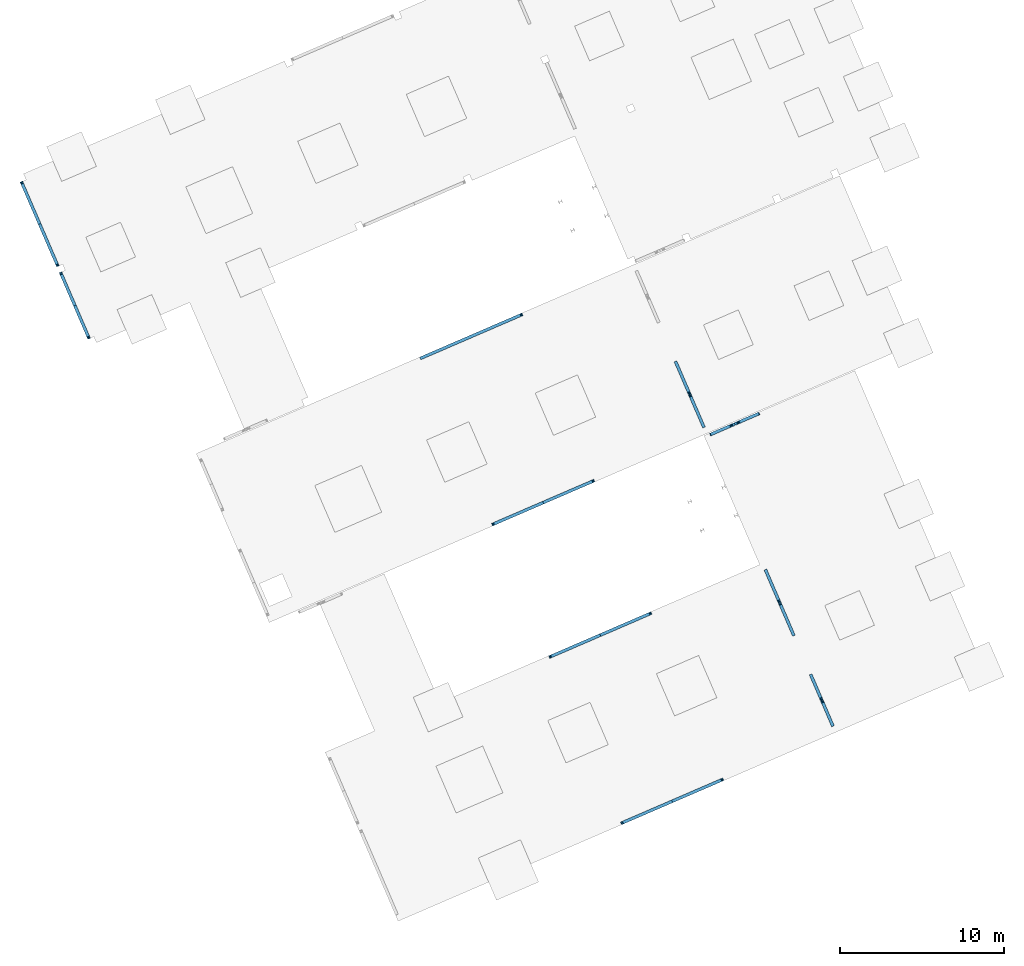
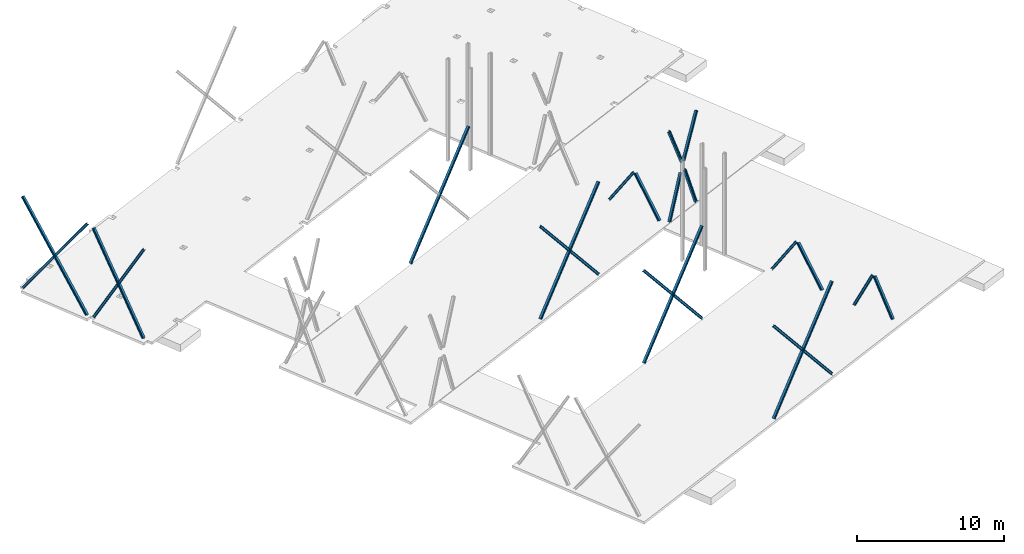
# One storey, part 3 of 6: 21 members.
"""IFC4 building model written with IfcOpenShell, lengths in metres."""

from ifc_helpers import new_model, entity, si_unit, converted_unit, derived_unit, direction, frame, origin, place, context, subcontext, project, spatial, line, arc, indexed_curve, outline, extrude, source, transform, mapped, material, type_object, type_shapes, element, save


model = new_model("IFC4")

# Units and contexts
model_context = context("Model", 3, precision=1e-05, world=origin(), true_north=direction((6.12323399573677e-17, 1.0)))
body_context = subcontext(model_context, "Body", "Model", "MODEL_VIEW")
ifc_project = project(units=[si_unit("LENGTHUNIT", "METRE"), si_unit("AREAUNIT", "SQUARE_METRE"), si_unit("VOLUMEUNIT", "CUBIC_METRE"), converted_unit("PLANEANGLEUNIT", "DEGREE", entity("IfcPlaneAngleMeasure", 0.0174532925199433), si_unit("PLANEANGLEUNIT", "RADIAN"), dimensions=[0, 0, 0, 0, 0, 0, 0]), si_unit("MASSUNIT", "GRAM", prefix="KILO"), derived_unit("MOMENTOFINERTIAUNIT", [(si_unit("LENGTHUNIT", "METRE"), 4)]), derived_unit("LINEARFORCEUNIT", [(si_unit("MASSUNIT", "GRAM", prefix="KILO"), 1), (si_unit("TIMEUNIT", "SECOND"), -2)]), derived_unit("WARPINGCONSTANTUNIT", [(si_unit("LENGTHUNIT", "METRE"), 6)]), derived_unit("THERMALTRANSMITTANCEUNIT", [(si_unit("MASSUNIT", "GRAM", prefix="KILO"), 1), (si_unit("THERMODYNAMICTEMPERATUREUNIT", "KELVIN"), -1), (si_unit("TIMEUNIT", "SECOND"), -3)]), derived_unit("USERDEFINED", [(si_unit("MASSUNIT", "GRAM", prefix="KILO"), 1), (si_unit("TIMEUNIT", "SECOND"), -2), (si_unit("THERMODYNAMICTEMPERATUREUNIT", "KELVIN"), -1)]), derived_unit("THERMALRESISTANCEUNIT", [(si_unit("MASSUNIT", "GRAM", prefix="KILO"), -1), (si_unit("TIMEUNIT", "SECOND"), 3), (si_unit("THERMODYNAMICTEMPERATUREUNIT", "KELVIN"), 1)])], contexts=[model_context])

# Site, building, storey
site_placement = place(None, origin())
site = spatial("IfcSite", under=ifc_project, at=site_placement, Name="Default", CompositionType="ELEMENT")
building_placement = place(site_placement, frame((12.6613425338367, -82.5732315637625, 317.15), z_axis=(0.0, 0.0, 1.0), x_axis=(-0.396377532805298, 0.918087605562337, 0.0)))
building = spatial("IfcBuilding", under=site, at=building_placement, Name="CESFAM Coyhaique", CompositionType="ELEMENT")
storey_placement = place(building_placement, frame((0.0, 0.0, -0.0500000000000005)))
storey = spatial("IfcBuildingStorey", under=building, at=storey_placement, Name="Nivel 1", CompositionType="ELEMENT", Elevation=-0.0500000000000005)

# Members
ifc_material = material(Name="Steel, 45-345", Category="Metal")
member_type_1 = type_object("IfcMemberType", Name="M_Double C-Channel:doble T HEB 180", PredefinedType="BRACE", material=ifc_material)
shared_shape_1 = source(origin(), body_context, "Body", "SweptSolid", [
    extrude(outline(indexed_curve([(-0.045425, -0.0899999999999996), (0.0445749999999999, -0.0899999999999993), (0.0397422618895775, -0.0783327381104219), (0.0280749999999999, -0.0735000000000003), (-0.0272249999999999, -0.0647413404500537), (-0.0272249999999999, 0.0647413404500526), (0.0280750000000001, 0.0734999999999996), (0.0397422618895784, 0.078332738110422), (0.044575, 0.0900000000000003), (-0.045425, 0.0900000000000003)], segments=[line(1, 2), arc(2, 3, 4), line(4, 5, 6, 7), arc(7, 8, 9), line(9, 10, 1)], self_intersect=False)), frame((-4.78563420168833, -0.0454249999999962, 0.0), z_axis=(1.0, 0.0, 0.0), x_axis=(0.0, -1.0, 0.0)), (0.0, 0.0, 1.0), 9.35188323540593),
    extrude(outline(indexed_curve([(-0.0899999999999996, -0.045425), (0.0900000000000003, -0.045425), (0.0900000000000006, 0.044575), (0.0783327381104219, 0.0397422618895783), (0.0734999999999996, 0.028075), (0.0647413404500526, -0.0272249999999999), (-0.0647413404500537, -0.0272249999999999), (-0.0735000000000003, 0.0280749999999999), (-0.0783327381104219, 0.0397422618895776), (-0.0899999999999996, 0.0445749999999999)], segments=[line(1, 2, 3), arc(3, 4, 5), line(5, 6, 7, 8), arc(8, 9, 10), line(10, 1)], self_intersect=False)), frame((-4.78563420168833, 0.0454250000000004, 0.0), z_axis=(1.0, 0.0, 0.0), x_axis=(0.0, 0.0, -1.0)), (0.0, 0.0, 1.0), 9.35188323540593),
])
type_shapes(member_type_1, [shared_shape_1])
member_1_placement = place(storey_placement, frame((51.4957655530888, 20.6128502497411, 4.12248177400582), z_axis=(0.812087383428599, 0.0, 0.583535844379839), x_axis=(-0.583535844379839, 0.0, 0.812087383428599)))
element("IfcMember", 1, at=member_1_placement, inside=storey, type_object=member_type_1, Name="M_Double C-Channel:doble T HEB 180", ObjectType="M_Double C-Channel:doble T HEB 180", PredefinedType="BRACE", context=body_context, shape_type="MappedRepresentation", body=[
    mapped(shared_shape_1, transform((0.0, 0.0, 0.0), scale=1.0)),
])
member_type_2 = type_object("IfcMemberType", Name="M_Double C-Channel:doble T HEB 180", PredefinedType="BRACE", material=ifc_material)
shared_shape_2 = source(origin(), body_context, "Body", "SweptSolid", [
    extrude(outline(indexed_curve([(-0.045425, -0.0899999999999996), (0.0445749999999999, -0.0899999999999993), (0.0397422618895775, -0.0783327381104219), (0.0280749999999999, -0.0735000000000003), (-0.0272249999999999, -0.0647413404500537), (-0.0272249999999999, 0.0647413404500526), (0.0280750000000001, 0.0734999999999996), (0.0397422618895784, 0.078332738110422), (0.044575, 0.0900000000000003), (-0.045425, 0.0900000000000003)], segments=[line(1, 2), arc(2, 3, 4), line(4, 5, 6, 7), arc(7, 8, 9), line(9, 10, 1)], self_intersect=False)), frame((-5.19380430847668, -0.0454249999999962, 0.0), z_axis=(1.0, 0.0, 0.0), x_axis=(0.0, -1.0, 0.0)), (0.0, 0.0, 1.0), 10.1788586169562),
    extrude(outline(indexed_curve([(-0.0899999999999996, -0.045425), (0.0900000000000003, -0.045425), (0.0900000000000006, 0.044575), (0.0783327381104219, 0.0397422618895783), (0.0734999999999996, 0.028075), (0.0647413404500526, -0.0272249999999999), (-0.0647413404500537, -0.0272249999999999), (-0.0735000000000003, 0.0280749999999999), (-0.0783327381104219, 0.0397422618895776), (-0.0899999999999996, 0.0445749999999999)], segments=[line(1, 2, 3), arc(3, 4, 5), line(5, 6, 7, 8), arc(8, 9, 10), line(10, 1)], self_intersect=False)), frame((-5.19380430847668, 0.0454250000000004, 0.0), z_axis=(1.0, 0.0, 0.0), x_axis=(0.0, 0.0, -1.0)), (0.0, 0.0, 1.0), 10.1788586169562),
])
type_shapes(member_type_2, [shared_shape_2])
for number, where, z_axis, x_axis in (
    (2, (4.05885341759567, -0.72898966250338, 4.1162273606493), (0.0, -0.757332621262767, 0.653029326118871), (0.0, 0.653029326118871, 0.757332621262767)),
    (3, (15.0788534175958, -0.728989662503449, 4.1162273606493), (0.0, -0.757332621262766, 0.653029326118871), (0.0, 0.653029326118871, 0.757332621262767)),
    (4, (23.8588534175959, -0.865309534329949, 4.1162273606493), (0.0, 0.757332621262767, 0.653029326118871), (0.0, -0.653029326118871, 0.757332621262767)),
):
    element("IfcMember", number, at=place(storey_placement, frame(where, z_axis=z_axis, x_axis=x_axis)), inside=storey, type_object=member_type_2, Name="M_Double C-Channel:doble T HEB 180", ObjectType="M_Double C-Channel:doble T HEB 180", PredefinedType="BRACE", context=body_context, shape_type="MappedRepresentation", body=[
        mapped(shared_shape_2, transform((0.0, 0.0, 0.0), scale=1.0)),
    ])
member_type_3 = type_object("IfcMemberType", Name="M_Double C-Channel:doble T HEB 180", PredefinedType="BRACE", material=ifc_material)
shared_shape_3 = source(origin(), body_context, "Body", "SweptSolid", [
    extrude(outline(indexed_curve([(-0.0899999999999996, -0.045425), (0.0900000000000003, -0.045425), (0.0900000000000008, 0.044575), (0.078332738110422, 0.0397422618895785), (0.0734999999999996, 0.028075), (0.0647413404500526, -0.0272249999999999), (-0.0647413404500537, -0.0272249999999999), (-0.0735000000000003, 0.0280749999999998), (-0.0783327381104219, 0.0397422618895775), (-0.0899999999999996, 0.0445749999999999)], segments=[line(1, 2, 3), arc(3, 4, 5), line(5, 6, 7, 8), arc(8, 9, 10), line(10, 1)], self_intersect=False)), frame((-5.19380430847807, 0.0454249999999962, 0.0), z_axis=(1.0, 0.0, 0.0), x_axis=(0.0, 0.0, -1.0)), (0.0, 0.0, 1.0), 10.1788586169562),
    extrude(outline(indexed_curve([(-0.045425, -0.0899999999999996), (0.0445749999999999, -0.0899999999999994), (0.0397422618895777, -0.078332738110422), (0.0280749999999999, -0.0735000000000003), (-0.0272249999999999, -0.0647413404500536), (-0.0272249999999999, 0.0647413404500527), (0.0280749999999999, 0.0734999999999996), (0.0397422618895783, 0.0783327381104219), (0.044575, 0.0900000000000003), (-0.045425, 0.0900000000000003)], segments=[line(1, 2), arc(2, 3, 4), line(4, 5, 6, 7), arc(7, 8, 9), line(9, 10, 1)], self_intersect=False)), frame((-5.19380430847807, -0.0454250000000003, 0.0), z_axis=(1.0, 0.0, 0.0), x_axis=(0.0, -1.0, 0.0)), (0.0, 0.0, 1.0), 10.1788586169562),
])
type_shapes(member_type_3, [shared_shape_3])
for number, where, z_axis, x_axis in (
    (5, (4.05885341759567, -0.865309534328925, 4.1162273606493), (0.0, 0.757332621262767, 0.653029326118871), (0.0, -0.653029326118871, 0.757332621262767)),
    (6, (15.0788534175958, -0.865309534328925, 4.1162273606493), (0.0, 0.757332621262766, 0.653029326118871), (0.0, -0.653029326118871, 0.757332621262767)),
    (7, (23.8588534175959, -0.728989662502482, 4.1162273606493), (0.0, -0.757332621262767, 0.653029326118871), (0.0, 0.653029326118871, 0.757332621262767)),
    (8, (34.878853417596, -0.865309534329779, 4.1162273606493), (0.0, 0.757332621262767, 0.653029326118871), (0.0, -0.653029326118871, 0.757332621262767)),
):
    element("IfcMember", number, at=place(storey_placement, frame(where, z_axis=z_axis, x_axis=x_axis)), inside=storey, type_object=member_type_3, Name="M_Double C-Channel:doble T HEB 180", ObjectType="M_Double C-Channel:doble T HEB 180", PredefinedType="BRACE", context=body_context, shape_type="MappedRepresentation", body=[
        mapped(shared_shape_3, transform((0.0, 0.0, 0.0), scale=1.0)),
    ])
member_type_4 = type_object("IfcMemberType", Name="M_Double C-Channel:doble T HEB 180", PredefinedType="BRACE", material=ifc_material)
shared_shape_4 = source(origin(), body_context, "Body", "SweptSolid", [
    extrude(outline(indexed_curve([(-0.0899999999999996, -0.045425), (0.0900000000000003, -0.045425), (0.0900000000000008, 0.044575), (0.078332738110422, 0.0397422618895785), (0.0734999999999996, 0.028075), (0.0647413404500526, -0.0272249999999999), (-0.0647413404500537, -0.0272249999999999), (-0.0735000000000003, 0.0280749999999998), (-0.0783327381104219, 0.0397422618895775), (-0.0899999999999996, 0.0445749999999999)], segments=[line(1, 2, 3), arc(3, 4, 5), line(5, 6, 7, 8), arc(8, 9, 10), line(10, 1)], self_intersect=False)), frame((-1.62182861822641, 0.0454249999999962, 0.0), z_axis=(1.0, 0.0, 0.0), x_axis=(0.0, 0.0, -1.0)), (0.0, 0.0, 1.0), 3.32193402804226),
    extrude(outline(indexed_curve([(-0.045425, -0.0899999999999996), (0.0445749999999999, -0.0899999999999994), (0.0397422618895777, -0.078332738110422), (0.0280749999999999, -0.0735000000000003), (-0.0272249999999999, -0.0647413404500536), (-0.0272249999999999, 0.0647413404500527), (0.0280749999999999, 0.0734999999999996), (0.0397422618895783, 0.0783327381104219), (0.044575, 0.0900000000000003), (-0.045425, 0.0900000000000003)], segments=[line(1, 2), arc(2, 3, 4), line(4, 5, 6, 7), arc(7, 8, 9), line(9, 10, 1)], self_intersect=False)), frame((-1.62182861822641, -0.0454250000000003, 0.0), z_axis=(1.0, 0.0, 0.0), x_axis=(0.0, -1.0, 0.0)), (0.0, 0.0, 1.0), 3.32193402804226),
])
type_shapes(member_type_4, [shared_shape_4])
member_2_placement = place(storey_placement, frame((5.210960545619, -11.5971495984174, 1.78301541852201), z_axis=(-0.884523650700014, 0.0, 0.466495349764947), x_axis=(0.466495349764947, 0.0, 0.884523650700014)))
element("IfcMember", 9, at=member_2_placement, inside=storey, type_object=member_type_4, Name="M_Double C-Channel:doble T HEB 180", ObjectType="M_Double C-Channel:doble T HEB 180", PredefinedType="BRACE", context=body_context, shape_type="MappedRepresentation", body=[
    mapped(shared_shape_4, transform((0.0, 0.0, 0.0), scale=1.0)),
])
member_type_5 = type_object("IfcMemberType", Name="M_Double C-Channel:doble T HEB 180", PredefinedType="BRACE", material=ifc_material)
shared_shape_5 = source(origin(), body_context, "Body", "SweptSolid", [
    extrude(outline(indexed_curve([(-0.045425, -0.0899999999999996), (0.0445749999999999, -0.0899999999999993), (0.0397422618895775, -0.0783327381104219), (0.0280749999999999, -0.0735000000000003), (-0.0272249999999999, -0.0647413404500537), (-0.0272249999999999, 0.0647413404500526), (0.0280750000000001, 0.0734999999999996), (0.0397422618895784, 0.078332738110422), (0.044575, 0.0900000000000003), (-0.045425, 0.0900000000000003)], segments=[line(1, 2), arc(2, 3, 4), line(4, 5, 6, 7), arc(7, 8, 9), line(9, 10, 1)], self_intersect=False)), frame((-1.80410523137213, -0.0454249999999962, 0.0), z_axis=(1.0, 0.0, 0.0), x_axis=(0.0, -1.0, 0.0)), (0.0, 0.0, 1.0), 3.48136523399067),
    extrude(outline(indexed_curve([(-0.0899999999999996, -0.045425), (0.0900000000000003, -0.045425), (0.0900000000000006, 0.044575), (0.0783327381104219, 0.0397422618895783), (0.0734999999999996, 0.028075), (0.0647413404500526, -0.0272249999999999), (-0.0647413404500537, -0.0272249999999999), (-0.0735000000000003, 0.0280749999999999), (-0.0783327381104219, 0.0397422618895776), (-0.0899999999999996, 0.0445749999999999)], segments=[line(1, 2, 3), arc(3, 4, 5), line(5, 6, 7, 8), arc(8, 9, 10), line(10, 1)], self_intersect=False)), frame((-1.80410523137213, 0.0454250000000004, 0.0), z_axis=(1.0, 0.0, 0.0), x_axis=(0.0, 0.0, -1.0)), (0.0, 0.0, 1.0), 3.48136523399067),
])
type_shapes(member_type_5, [shared_shape_5])
member_3_placement = place(storey_placement, frame((6.92585496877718, -11.5971495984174, 1.78475077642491), z_axis=(0.89442719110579, 0.0, 0.447213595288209), x_axis=(-0.447213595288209, 0.0, 0.89442719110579)))
element("IfcMember", 10, at=member_3_placement, inside=storey, type_object=member_type_5, Name="M_Double C-Channel:doble T HEB 180", ObjectType="M_Double C-Channel:doble T HEB 180", PredefinedType="BRACE", context=body_context, shape_type="MappedRepresentation", body=[
    mapped(shared_shape_5, transform((0.0, 0.0, 0.0), scale=1.0)),
])
member_type_6 = type_object("IfcMemberType", Name="M_Double C-Channel:doble T HEB 180", PredefinedType="BRACE", material=ifc_material)
shared_shape_6 = source(origin(), body_context, "Body", "SweptSolid", [
    extrude(outline(indexed_curve([(-0.0899999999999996, -0.045425), (0.0900000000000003, -0.045425), (0.0900000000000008, 0.044575), (0.078332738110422, 0.0397422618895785), (0.0734999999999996, 0.028075), (0.0647413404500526, -0.0272249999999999), (-0.0647413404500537, -0.0272249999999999), (-0.0735000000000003, 0.0280749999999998), (-0.0783327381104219, 0.0397422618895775), (-0.0899999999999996, 0.0445749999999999)], segments=[line(1, 2, 3), arc(3, 4, 5), line(5, 6, 7, 8), arc(8, 9, 10), line(10, 1)], self_intersect=False)), frame((-4.40165916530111, 0.0454249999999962, 0.0), z_axis=(1.0, 0.0, 0.0), x_axis=(0.0, 0.0, -1.0)), (0.0, 0.0, 1.0), 8.52130816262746),
    extrude(outline(indexed_curve([(-0.045425, -0.0899999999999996), (0.0445749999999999, -0.0899999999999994), (0.0397422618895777, -0.078332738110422), (0.0280749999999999, -0.0735000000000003), (-0.0272249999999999, -0.0647413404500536), (-0.0272249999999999, 0.0647413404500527), (0.0280749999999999, 0.0734999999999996), (0.0397422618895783, 0.0783327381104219), (0.044575, 0.0900000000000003), (-0.045425, 0.0900000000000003)], segments=[line(1, 2), arc(2, 3, 4), line(4, 5, 6, 7), arc(7, 8, 9), line(9, 10, 1)], self_intersect=False)), frame((-4.40165916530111, -0.0454250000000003, 0.0), z_axis=(1.0, 0.0, 0.0), x_axis=(0.0, -1.0, 0.0)), (0.0, 0.0, 1.0), 8.52130816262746),
])
type_shapes(member_type_6, [shared_shape_6])
member_4_placement = place(storey_placement, frame((46.0908268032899, 20.6128502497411, 4.13014637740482), z_axis=(0.86696238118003, 0.0, 0.498373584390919), x_axis=(-0.498373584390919, 0.0, 0.86696238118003)))
element("IfcMember", 11, at=member_4_placement, inside=storey, type_object=member_type_6, Name="M_Double C-Channel:doble T HEB 180", ObjectType="M_Double C-Channel:doble T HEB 180", PredefinedType="BRACE", context=body_context, shape_type="MappedRepresentation", body=[
    mapped(shared_shape_6, transform((0.0, 0.0, 0.0), scale=1.0)),
])
member_type_7 = type_object("IfcMemberType", Name="M_Double C-Channel:doble T HEB 180", PredefinedType="BRACE", material=ifc_material)
shared_shape_7 = source(origin(), body_context, "Body", "SweptSolid", [
    extrude(outline(indexed_curve([(-0.045425, -0.0899999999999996), (0.0445749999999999, -0.0899999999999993), (0.0397422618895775, -0.0783327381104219), (0.0280749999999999, -0.0735000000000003), (-0.0272249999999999, -0.0647413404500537), (-0.0272249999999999, 0.0647413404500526), (0.0280750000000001, 0.0734999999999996), (0.0397422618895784, 0.078332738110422), (0.044575, 0.0900000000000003), (-0.045425, 0.0900000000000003)], segments=[line(1, 2), arc(2, 3, 4), line(4, 5, 6, 7), arc(7, 8, 9), line(9, 10, 1)], self_intersect=False)), frame((-4.40165916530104, -0.0454249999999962, 0.0), z_axis=(1.0, 0.0, 0.0), x_axis=(0.0, -1.0, 0.0)), (0.0, 0.0, 1.0), 8.52130816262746),
    extrude(outline(indexed_curve([(-0.0899999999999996, -0.045425), (0.0900000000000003, -0.045425), (0.0900000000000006, 0.044575), (0.0783327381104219, 0.0397422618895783), (0.0734999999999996, 0.028075), (0.0647413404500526, -0.0272249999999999), (-0.0647413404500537, -0.0272249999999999), (-0.0735000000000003, 0.0280749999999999), (-0.0783327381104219, 0.0397422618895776), (-0.0899999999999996, 0.0445749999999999)], segments=[line(1, 2, 3), arc(3, 4, 5), line(5, 6, 7, 8), arc(8, 9, 10), line(10, 1)], self_intersect=False)), frame((-4.40165916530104, 0.0454250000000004, 0.0), z_axis=(1.0, 0.0, 0.0), x_axis=(0.0, 0.0, -1.0)), (0.0, 0.0, 1.0), 8.52130816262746),
])
type_shapes(member_type_7, [shared_shape_7])
member_5_placement = place(storey_placement, frame((46.2468800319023, 20.6128502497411, 4.13014637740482), z_axis=(-0.86696238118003, 0.0, 0.498373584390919), x_axis=(0.498373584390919, 0.0, 0.86696238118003)))
element("IfcMember", 12, at=member_5_placement, inside=storey, type_object=member_type_7, Name="M_Double C-Channel:doble T HEB 180", ObjectType="M_Double C-Channel:doble T HEB 180", PredefinedType="BRACE", context=body_context, shape_type="MappedRepresentation", body=[
    mapped(shared_shape_7, transform((0.0, 0.0, 0.0), scale=1.0)),
])
member_type_8 = type_object("IfcMemberType", Name="M_Double C-Channel:doble T HEB 180", PredefinedType="BRACE", material=ifc_material)
shared_shape_8 = source(origin(), body_context, "Body", "SweptSolid", [
    extrude(outline(indexed_curve([(-0.0899999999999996, -0.045425), (0.0900000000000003, -0.045425), (0.0900000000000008, 0.044575), (0.078332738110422, 0.0397422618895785), (0.0734999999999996, 0.028075), (0.0647413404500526, -0.0272249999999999), (-0.0647413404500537, -0.0272249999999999), (-0.0735000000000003, 0.0280749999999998), (-0.0783327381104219, 0.0397422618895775), (-0.0899999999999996, 0.0445749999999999)], segments=[line(1, 2, 3), arc(3, 4, 5), line(5, 6, 7, 8), arc(8, 9, 10), line(10, 1)], self_intersect=False)), frame((-4.78563420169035, 0.0454249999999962, 0.0), z_axis=(1.0, 0.0, 0.0), x_axis=(0.0, 0.0, -1.0)), (0.0, 0.0, 1.0), 9.35188323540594),
    extrude(outline(indexed_curve([(-0.045425, -0.0899999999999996), (0.0445749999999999, -0.0899999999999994), (0.0397422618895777, -0.078332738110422), (0.0280749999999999, -0.0735000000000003), (-0.0272249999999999, -0.0647413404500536), (-0.0272249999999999, 0.0647413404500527), (0.0280749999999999, 0.0734999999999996), (0.0397422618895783, 0.0783327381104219), (0.044575, 0.0900000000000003), (-0.045425, 0.0900000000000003)], segments=[line(1, 2), arc(2, 3, 4), line(4, 5, 6, 7), arc(7, 8, 9), line(9, 10, 1)], self_intersect=False)), frame((-4.78563420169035, -0.0454250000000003, 0.0), z_axis=(1.0, 0.0, 0.0), x_axis=(0.0, -1.0, 0.0)), (0.0, 0.0, 1.0), 9.35188323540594),
])
type_shapes(member_type_8, [shared_shape_8])
member_6_placement = place(storey_placement, frame((51.6419412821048, 20.6128502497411, 4.12248177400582), z_axis=(-0.812087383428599, 0.0, 0.583535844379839), x_axis=(0.583535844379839, 0.0, 0.812087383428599)))
element("IfcMember", 13, at=member_6_placement, inside=storey, type_object=member_type_8, Name="M_Double C-Channel:doble T HEB 180", ObjectType="M_Double C-Channel:doble T HEB 180", PredefinedType="BRACE", context=body_context, shape_type="MappedRepresentation", body=[
    mapped(shared_shape_8, transform((0.0, 0.0, 0.0), scale=1.0)),
])
member_type_9 = type_object("IfcMemberType", Name="M_Double C-Channel:doble T HEB 180", PredefinedType="BRACE", material=ifc_material)
shared_shape_9 = source(origin(), body_context, "Body", "SweptSolid", [
    extrude(outline(indexed_curve([(-0.0899999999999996, -0.045425), (0.0900000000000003, -0.045425), (0.0900000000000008, 0.044575), (0.078332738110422, 0.0397422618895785), (0.0734999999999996, 0.028075), (0.0647413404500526, -0.0272249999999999), (-0.0647413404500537, -0.0272249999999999), (-0.0735000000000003, 0.0280749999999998), (-0.0783327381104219, 0.0397422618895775), (-0.0899999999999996, 0.0445749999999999)], segments=[line(1, 2, 3), arc(3, 4, 5), line(5, 6, 7, 8), arc(8, 9, 10), line(10, 1)], self_intersect=False)), frame((-1.80744670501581, 0.0454249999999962, 0.0), z_axis=(1.0, 0.0, 0.0), x_axis=(0.0, 0.0, -1.0)), (0.0, 0.0, 1.0), 3.70517275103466),
    extrude(outline(indexed_curve([(-0.045425, -0.0899999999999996), (0.0445749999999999, -0.0899999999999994), (0.0397422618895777, -0.078332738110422), (0.0280749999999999, -0.0735000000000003), (-0.0272249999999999, -0.0647413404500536), (-0.0272249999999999, 0.0647413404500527), (0.0280749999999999, 0.0734999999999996), (0.0397422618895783, 0.0783327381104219), (0.044575, 0.0900000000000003), (-0.045425, 0.0900000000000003)], segments=[line(1, 2), arc(2, 3, 4), line(4, 5, 6, 7), arc(7, 8, 9), line(9, 10, 1)], self_intersect=False)), frame((-1.80744670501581, -0.0454250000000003, 0.0), z_axis=(1.0, 0.0, 0.0), x_axis=(0.0, -1.0, 0.0)), (0.0, 0.0, 1.0), 3.70517275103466),
])
type_shapes(member_type_9, [shared_shape_9])
for number, where, z_axis, x_axis in (
    (14, (11.4440533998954, -11.5971495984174, 1.77555343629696), (-0.835555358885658, 0.0, 0.549406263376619), (0.549406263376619, 0.0, 0.835555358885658)),
    (15, (25.2440533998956, -11.5971495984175, 1.77555343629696), (-0.835555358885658, 0.0, 0.549406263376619), (0.549406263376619, 0.0, 0.835555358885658)),
):
    element("IfcMember", number, at=place(storey_placement, frame(where, z_axis=z_axis, x_axis=x_axis)), inside=storey, type_object=member_type_9, Name="M_Double C-Channel:doble T HEB 180", ObjectType="M_Double C-Channel:doble T HEB 180", PredefinedType="BRACE", context=body_context, shape_type="MappedRepresentation", body=[
        mapped(shared_shape_9, transform((0.0, 0.0, 0.0), scale=1.0)),
    ])
member_type_10 = type_object("IfcMemberType", Name="M_Double C-Channel:doble T HEB 180", PredefinedType="BRACE", material=ifc_material)
shared_shape_10 = source(origin(), body_context, "Body", "SweptSolid", [
    extrude(outline(indexed_curve([(-0.045425, -0.0899999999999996), (0.0445749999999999, -0.0899999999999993), (0.0397422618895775, -0.0783327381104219), (0.0280749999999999, -0.0735000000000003), (-0.0272249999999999, -0.0647413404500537), (-0.0272249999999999, 0.0647413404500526), (0.0280750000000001, 0.0734999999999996), (0.0397422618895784, 0.078332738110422), (0.044575, 0.0900000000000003), (-0.045425, 0.0900000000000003)], segments=[line(1, 2), arc(2, 3, 4), line(4, 5, 6, 7), arc(7, 8, 9), line(9, 10, 1)], self_intersect=False)), frame((-1.80744670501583, -0.0454249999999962, 0.0), z_axis=(1.0, 0.0, 0.0), x_axis=(0.0, -1.0, 0.0)), (0.0, 0.0, 1.0), 3.70517275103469),
    extrude(outline(indexed_curve([(-0.0899999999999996, -0.045425), (0.0900000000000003, -0.045425), (0.0900000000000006, 0.044575), (0.0783327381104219, 0.0397422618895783), (0.0734999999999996, 0.028075), (0.0647413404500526, -0.0272249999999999), (-0.0647413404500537, -0.0272249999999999), (-0.0735000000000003, 0.0280749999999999), (-0.0783327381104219, 0.0397422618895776), (-0.0899999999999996, 0.0445749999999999)], segments=[line(1, 2, 3), arc(3, 4, 5), line(5, 6, 7, 8), arc(8, 9, 10), line(10, 1)], self_intersect=False)), frame((-1.80744670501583, 0.0454250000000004, 0.0), z_axis=(1.0, 0.0, 0.0), x_axis=(0.0, 0.0, -1.0)), (0.0, 0.0, 1.0), 3.70517275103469),
])
type_shapes(member_type_10, [shared_shape_10])
for number, where, z_axis, x_axis in (
    (16, (13.6936534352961, -11.5971495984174, 1.77555343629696), (0.835555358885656, 0.0, 0.549406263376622), (-0.549406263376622, 0.0, 0.835555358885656)),
    (17, (27.4936534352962, -11.5971495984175, 1.77555343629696), (0.835555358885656, 0.0, 0.549406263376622), (-0.549406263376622, 0.0, 0.835555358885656)),
):
    element("IfcMember", number, at=place(storey_placement, frame(where, z_axis=z_axis, x_axis=x_axis)), inside=storey, type_object=member_type_10, Name="M_Double C-Channel:doble T HEB 180", ObjectType="M_Double C-Channel:doble T HEB 180", PredefinedType="BRACE", context=body_context, shape_type="MappedRepresentation", body=[
        mapped(shared_shape_10, transform((0.0, 0.0, 0.0), scale=1.0)),
    ])
member_type_11 = type_object("IfcMemberType", Name="M_Double C-Channel:doble T HEB 180", PredefinedType="BRACE", material=ifc_material)
shared_shape_11 = source(origin(), body_context, "Body", "SweptSolid", [
    extrude(outline(indexed_curve([(-0.0899999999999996, -0.045425), (0.0900000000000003, -0.045425), (0.0900000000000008, 0.044575), (0.078332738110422, 0.0397422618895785), (0.0734999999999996, 0.028075), (0.0647413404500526, -0.0272249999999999), (-0.0647413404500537, -0.0272249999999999), (-0.0735000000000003, 0.0280749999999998), (-0.0783327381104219, 0.0397422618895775), (-0.0899999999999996, 0.0445749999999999)], segments=[line(1, 2, 3), arc(3, 4, 5), line(5, 6, 7, 8), arc(8, 9, 10), line(10, 1)], self_intersect=False)), frame((-1.82612543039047, 0.0454249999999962, 0.0), z_axis=(1.0, 0.0, 0.0), x_axis=(0.0, 0.0, -1.0)), (0.0, 0.0, 1.0), 3.66495086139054),
    extrude(outline(indexed_curve([(-0.045425, -0.0899999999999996), (0.0445749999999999, -0.0899999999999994), (0.0397422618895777, -0.078332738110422), (0.0280749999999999, -0.0735000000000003), (-0.0272249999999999, -0.0647413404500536), (-0.0272249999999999, 0.0647413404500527), (0.0280749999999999, 0.0734999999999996), (0.0397422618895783, 0.0783327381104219), (0.044575, 0.0900000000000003), (-0.045425, 0.0900000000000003)], segments=[line(1, 2), arc(2, 3, 4), line(4, 5, 6, 7), arc(7, 8, 9), line(9, 10, 1)], self_intersect=False)), frame((-1.82612543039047, -0.0454250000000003, 0.0), z_axis=(1.0, 0.0, 0.0), x_axis=(0.0, -1.0, 0.0)), (0.0, 0.0, 1.0), 3.66495086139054),
])
type_shapes(member_type_11, [shared_shape_11])
member_7_placement = place(storey_placement, frame((23.6288534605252, -14.217823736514, 6.12216287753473), z_axis=(0.0, 0.915869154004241, 0.401476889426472), x_axis=(0.0, -0.401476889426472, 0.915869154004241)))
element("IfcMember", 18, at=member_7_placement, inside=storey, type_object=member_type_11, Name="M_Double C-Channel:doble T HEB 180", ObjectType="M_Double C-Channel:doble T HEB 180", PredefinedType="BRACE", context=body_context, shape_type="MappedRepresentation", body=[
    mapped(shared_shape_11, transform((0.0, 0.0, 0.0), scale=1.0)),
])
member_type_12 = type_object("IfcMemberType", Name="M_Double C-Channel:doble T HEB 180", PredefinedType="BRACE", material=ifc_material)
shared_shape_12 = source(origin(), body_context, "Body", "SweptSolid", [
    extrude(outline(indexed_curve([(-0.045425, -0.0899999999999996), (0.0445749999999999, -0.0899999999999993), (0.0397422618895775, -0.0783327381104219), (0.0280749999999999, -0.0735000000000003), (-0.0272249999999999, -0.0647413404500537), (-0.0272249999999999, 0.0647413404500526), (0.0280750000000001, 0.0734999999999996), (0.0397422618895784, 0.078332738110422), (0.044575, 0.0900000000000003), (-0.045425, 0.0900000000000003)], segments=[line(1, 2), arc(2, 3, 4), line(4, 5, 6, 7), arc(7, 8, 9), line(9, 10, 1)], self_intersect=False)), frame((-1.82649385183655, -0.0454249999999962, 0.0), z_axis=(1.0, 0.0, 0.0), x_axis=(0.0, -1.0, 0.0)), (0.0, 0.0, 1.0), 3.6656877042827),
    extrude(outline(indexed_curve([(-0.0899999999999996, -0.045425), (0.0900000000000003, -0.045425), (0.0900000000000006, 0.044575), (0.0783327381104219, 0.0397422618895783), (0.0734999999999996, 0.028075), (0.0647413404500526, -0.0272249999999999), (-0.0647413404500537, -0.0272249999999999), (-0.0735000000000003, 0.0280749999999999), (-0.0783327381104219, 0.0397422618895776), (-0.0899999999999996, 0.0445749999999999)], segments=[line(1, 2, 3), arc(3, 4, 5), line(5, 6, 7, 8), arc(8, 9, 10), line(10, 1)], self_intersect=False)), frame((-1.82649385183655, 0.0454250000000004, 0.0), z_axis=(1.0, 0.0, 0.0), x_axis=(0.0, 0.0, -1.0)), (0.0, 0.0, 1.0), 3.6656877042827),
])
type_shapes(member_type_12, [shared_shape_12])
member_8_placement = place(storey_placement, frame((23.6288534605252, -12.5763275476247, 6.12250030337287), z_axis=(0.0, -0.915869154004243, 0.401476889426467), x_axis=(0.0, 0.401476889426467, 0.915869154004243)))
element("IfcMember", 19, at=member_8_placement, inside=storey, type_object=member_type_12, Name="M_Double C-Channel:doble T HEB 180", ObjectType="M_Double C-Channel:doble T HEB 180", PredefinedType="BRACE", context=body_context, shape_type="MappedRepresentation", body=[
    mapped(shared_shape_12, transform((0.0, 0.0, 0.0), scale=1.0)),
])
member_type_13 = type_object("IfcMemberType", Name="M_Double C-Channel:doble T HEB 180", PredefinedType="BRACE", material=ifc_material)
shared_shape_13 = source(origin(), body_context, "Body", "SweptSolid", [
    extrude(outline(indexed_curve([(-0.0899999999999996, -0.045425), (0.0900000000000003, -0.045425), (0.0900000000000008, 0.044575), (0.078332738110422, 0.0397422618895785), (0.0734999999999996, 0.028075), (0.0647413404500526, -0.0272249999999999), (-0.0647413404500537, -0.0272249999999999), (-0.0735000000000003, 0.0280749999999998), (-0.0783327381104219, 0.0397422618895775), (-0.0899999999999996, 0.0445749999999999)], segments=[line(1, 2, 3), arc(3, 4, 5), line(5, 6, 7, 8), arc(8, 9, 10), line(10, 1)], self_intersect=False)), frame((-1.93196328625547, 0.0454249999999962, 0.0), z_axis=(1.0, 0.0, 0.0), x_axis=(0.0, 0.0, -1.0)), (0.0, 0.0, 1.0), 3.61850350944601),
    extrude(outline(indexed_curve([(-0.045425, -0.0899999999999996), (0.0445749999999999, -0.0899999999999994), (0.0397422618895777, -0.078332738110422), (0.0280749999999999, -0.0735000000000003), (-0.0272249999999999, -0.0647413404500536), (-0.0272249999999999, 0.0647413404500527), (0.0280749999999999, 0.0734999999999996), (0.0397422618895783, 0.0783327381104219), (0.044575, 0.0900000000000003), (-0.045425, 0.0900000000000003)], segments=[line(1, 2), arc(2, 3, 4), line(4, 5, 6, 7), arc(7, 8, 9), line(9, 10, 1)], self_intersect=False)), frame((-1.93196328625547, -0.0454250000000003, 0.0), z_axis=(1.0, 0.0, 0.0), x_axis=(0.0, -1.0, 0.0)), (0.0, 0.0, 1.0), 3.61850350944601),
])
type_shapes(member_type_13, [shared_shape_13])
member_9_placement = place(storey_placement, frame((23.6288534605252, -12.4879057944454, 1.83482114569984), z_axis=(0.0, 0.93587592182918, 0.352329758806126), x_axis=(0.0, 0.352329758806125, -0.93587592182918)))
element("IfcMember", 20, at=member_9_placement, inside=storey, type_object=member_type_13, Name="M_Double C-Channel:doble T HEB 180", ObjectType="M_Double C-Channel:doble T HEB 180", PredefinedType="BRACE", context=body_context, shape_type="MappedRepresentation", body=[
    mapped(shared_shape_13, transform((0.0, 0.0, 0.0), scale=1.0)),
])
member_type_14 = type_object("IfcMemberType", Name="M_Double C-Channel:doble T HEB 180", PredefinedType="BRACE", material=ifc_material)
shared_shape_14 = source(origin(), body_context, "Body", "SweptSolid", [
    extrude(outline(indexed_curve([(-0.045425, -0.0899999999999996), (0.0445749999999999, -0.0899999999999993), (0.0397422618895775, -0.0783327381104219), (0.0280749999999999, -0.0735000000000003), (-0.0272249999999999, -0.0647413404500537), (-0.0272249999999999, 0.0647413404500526), (0.0280750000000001, 0.0734999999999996), (0.0397422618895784, 0.078332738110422), (0.044575, 0.0900000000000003), (-0.045425, 0.0900000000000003)], segments=[line(1, 2), arc(2, 3, 4), line(4, 5, 6, 7), arc(7, 8, 9), line(9, 10, 1)], self_intersect=False)), frame((-1.93196328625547, -0.0454249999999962, 0.0), z_axis=(1.0, 0.0, 0.0), x_axis=(0.0, -1.0, 0.0)), (0.0, 0.0, 1.0), 3.62667750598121),
    extrude(outline(indexed_curve([(-0.0899999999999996, -0.045425), (0.0900000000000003, -0.045425), (0.0900000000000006, 0.044575), (0.0783327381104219, 0.0397422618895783), (0.0734999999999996, 0.028075), (0.0647413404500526, -0.0272249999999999), (-0.0647413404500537, -0.0272249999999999), (-0.0735000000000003, 0.0280749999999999), (-0.0783327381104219, 0.0397422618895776), (-0.0899999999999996, 0.0445749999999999)], segments=[line(1, 2, 3), arc(3, 4, 5), line(5, 6, 7, 8), arc(8, 9, 10), line(10, 1)], self_intersect=False)), frame((-1.93196328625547, 0.0454250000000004, 0.0), z_axis=(1.0, 0.0, 0.0), x_axis=(0.0, 0.0, -1.0)), (0.0, 0.0, 1.0), 3.62667750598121),
])
type_shapes(member_type_14, [shared_shape_14])
member_10_placement = place(storey_placement, frame((23.6288534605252, -14.3066061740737, 1.83425597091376), z_axis=(0.0, -0.935875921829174, 0.352329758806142), x_axis=(0.0, -0.352329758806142, -0.935875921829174)))
element("IfcMember", 21, at=member_10_placement, inside=storey, type_object=member_type_14, Name="M_Double C-Channel:doble T HEB 180", ObjectType="M_Double C-Channel:doble T HEB 180", PredefinedType="BRACE", context=body_context, shape_type="MappedRepresentation", body=[
    mapped(shared_shape_14, transform((0.0, 0.0, 0.0), scale=1.0)),
])

save(model, "model.ifc")
